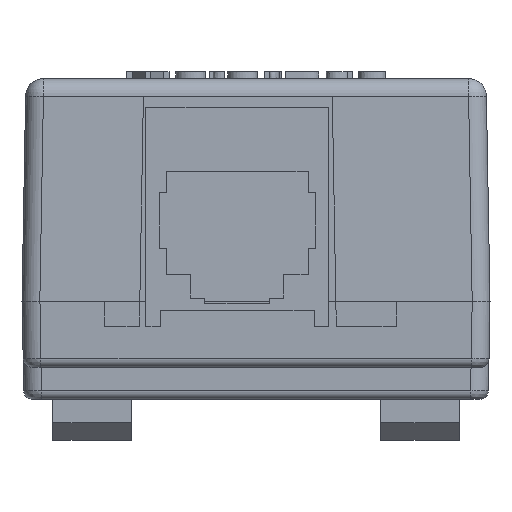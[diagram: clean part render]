
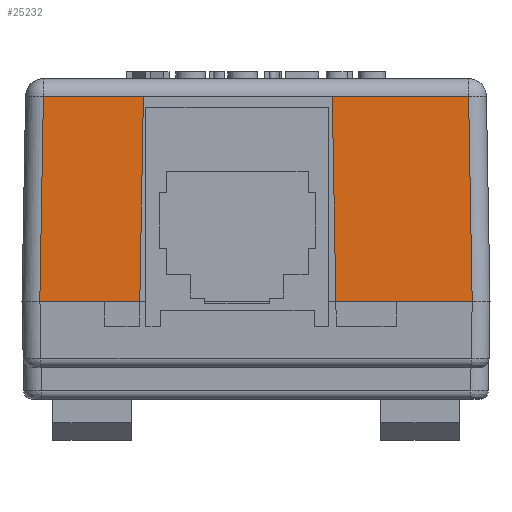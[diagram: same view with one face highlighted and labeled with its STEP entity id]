
A CAD part, front view. The second image highlights one B-rep face of the part: STEP entity #25232.
In plain terms, the highlighted planar face has unit normal (0, -1, 0.018).
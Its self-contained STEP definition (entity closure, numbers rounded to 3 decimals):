
#5408=ORIENTED_EDGE('',*,*,#10763,.F.);
#5409=ORIENTED_EDGE('',*,*,#10742,.F.);
#5410=ORIENTED_EDGE('',*,*,#10769,.F.);
#5411=ORIENTED_EDGE('',*,*,#10773,.T.);
#5412=ORIENTED_EDGE('',*,*,#10566,.T.);
#5413=ORIENTED_EDGE('',*,*,#10774,.T.);
#5414=ORIENTED_EDGE('',*,*,#10740,.T.);
#5415=ORIENTED_EDGE('',*,*,#10761,.T.);
#5416=ORIENTED_EDGE('',*,*,#10574,.T.);
#5417=ORIENTED_EDGE('',*,*,#10775,.F.);
#10566=EDGE_CURVE('',#13584,#13583,#16143,.F.);
#10574=EDGE_CURVE('',#13592,#13591,#16151,.F.);
#10740=EDGE_CURVE('',#13723,#13722,#16271,.F.);
#10742=EDGE_CURVE('',#13724,#13725,#16272,.F.);
#10761=EDGE_CURVE('',#13722,#13592,#16283,.F.);
#10763=EDGE_CURVE('',#13725,#13733,#16285,.F.);
#10769=EDGE_CURVE('',#13736,#13724,#16291,.F.);
#10773=EDGE_CURVE('',#13736,#13584,#16295,.T.);
#10774=EDGE_CURVE('',#13583,#13723,#16296,.T.);
#10775=EDGE_CURVE('',#13733,#13591,#16297,.T.);
#13583=VERTEX_POINT('',#41994);
#13584=VERTEX_POINT('',#41996);
#13591=VERTEX_POINT('',#42010);
#13592=VERTEX_POINT('',#42012);
#13722=VERTEX_POINT('',#42880);
#13723=VERTEX_POINT('',#42884);
#13724=VERTEX_POINT('',#42888);
#13725=VERTEX_POINT('',#42889);
#13733=VERTEX_POINT('',#42929);
#13736=VERTEX_POINT('',#42940);
#16143=LINE('',#41995,#19021);
#16151=LINE('',#42011,#19029);
#16271=LINE('',#42883,#19149);
#16272=LINE('',#42887,#19150);
#16283=LINE('',#42925,#19161);
#16285=LINE('',#42928,#19163);
#16291=LINE('',#42939,#19169);
#16295=LINE('',#42947,#19173);
#16296=LINE('',#42948,#19174);
#16297=LINE('',#42949,#19175);
#19021=VECTOR('',#31167,1000.);
#19029=VECTOR('',#31175,1000.);
#19149=VECTOR('',#31415,1000.);
#19150=VECTOR('',#31420,1000.);
#19161=VECTOR('',#31467,1000.);
#19163=VECTOR('',#31471,1000.);
#19169=VECTOR('',#31481,1000.);
#19173=VECTOR('',#31487,1000.);
#19174=VECTOR('',#31488,1000.);
#19175=VECTOR('',#31489,1000.);
#21040=EDGE_LOOP('',(#5408,#5409,#5410,#5411,#5412,#5413,#5414,#5415,#5416,
#5417));
#22689=FACE_BOUND('',#21040,.T.);
#23992=PLANE('',#27024);
#25232=ADVANCED_FACE('',(#22689),#23992,.T.);
#27024=AXIS2_PLACEMENT_3D('',#42946,#31485,#31486);
#31167=DIRECTION('',(-1.,0.,0.));
#31175=DIRECTION('',(-1.,0.,0.));
#31415=DIRECTION('',(1.,0.,0.));
#31420=DIRECTION('',(1.,0.,0.));
#31467=DIRECTION('',(0.017,0.017,1.));
#31471=DIRECTION('',(0.017,0.017,1.));
#31481=DIRECTION('',(0.017,-0.017,-1.));
#31485=DIRECTION('',(0.,-1.,0.017));
#31486=DIRECTION('',(0.,-0.017,-1.));
#31487=DIRECTION('',(1.,0.,0.));
#31488=DIRECTION('',(-0.017,0.017,1.));
#31489=DIRECTION('',(-1.,0.,0.));
#41994=CARTESIAN_POINT('',(15.405,-37.948,0.));
#41995=CARTESIAN_POINT('',(0.,-37.948,0.));
#41996=CARTESIAN_POINT('',(10.008,-37.948,0.));
#42010=CARTESIAN_POINT('',(-10.82,-37.948,0.));
#42011=CARTESIAN_POINT('',(0.,-37.948,0.));
#42012=CARTESIAN_POINT('',(-15.405,-37.948,0.));
#42880=CARTESIAN_POINT('',(-15.15,-37.692,14.627));
#42883=CARTESIAN_POINT('',(-15.128,-37.692,14.627));
#42884=CARTESIAN_POINT('',(15.15,-37.692,14.627));
#42887=CARTESIAN_POINT('',(0.,-37.693,14.605));
#42888=CARTESIAN_POINT('',(5.435,-37.693,14.605));
#42889=CARTESIAN_POINT('',(-8.025,-37.693,14.605));
#42925=CARTESIAN_POINT('',(-15.401,-37.943,0.269));
#42928=CARTESIAN_POINT('',(-8.278,-37.945,0.144));
#42929=CARTESIAN_POINT('',(-8.28,-37.948,0.));
#42939=CARTESIAN_POINT('',(5.688,-37.946,0.099));
#42940=CARTESIAN_POINT('',(5.69,-37.948,0.));
#42946=CARTESIAN_POINT('',(0.,-37.948,0.));
#42947=CARTESIAN_POINT('',(0.,-37.948,0.));
#42948=CARTESIAN_POINT('',(15.401,-37.943,0.269));
#42949=CARTESIAN_POINT('',(13.716,-37.948,0.));
